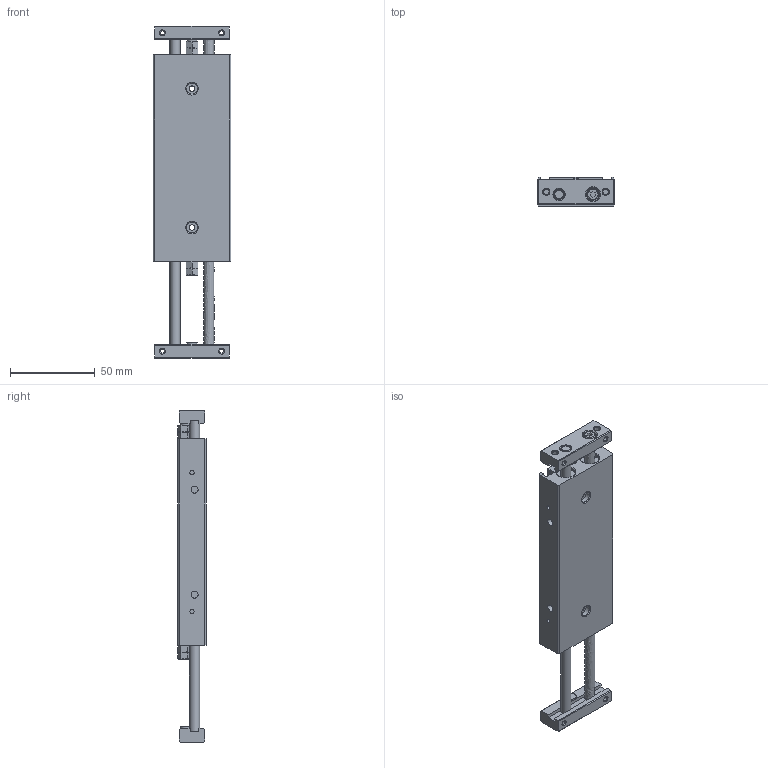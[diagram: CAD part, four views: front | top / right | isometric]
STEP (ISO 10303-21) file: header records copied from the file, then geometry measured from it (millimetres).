
FILE_DESCRIPTION((''),'2;1');
FILE_NAME('I:\3D電子目錄\氣缸\STX\STX\STX10\STX10x40.stp','2007-10-01T16:51:06',('Administrator'),(''),'Autodesk Inventor 11','Autodesk Inventor 11','');
FILE_SCHEMA(('AUTOMOTIVE_DESIGN { 1 0 10303 214 1 1 1 1 }'));
Length unit declared in the file: millimetre
Products named in the file (1): STX10
Bounding box: 46 x 17.04 x 196 mm (x, y, z)
Volume: 98332.2 mm3; surface area: 29652.5 mm2
Topology: 1 solids, 1 shells, 269 faces, 644 edges, 400 vertices
Faces by surface type: plane 135, cone 72, bspline 36, cylinder 22, torus 4
Full cylindrical faces by diameter (mm): 2.459 x2, 4.134 x2, 6 x6, 6.2 x2, 6.5 x2, 7 x2, 8 x2, 11 x2, 12 x2
Entity records: 7637 total; most frequent: CARTESIAN_POINT 2109, ORIENTED_EDGE 1082, DIRECTION 1076, EDGE_CURVE 541, AXIS2_PLACEMENT_3D 405, EDGE_LOOP 399, VERTEX_POINT 374, FACE_OUTER_BOUND 269
